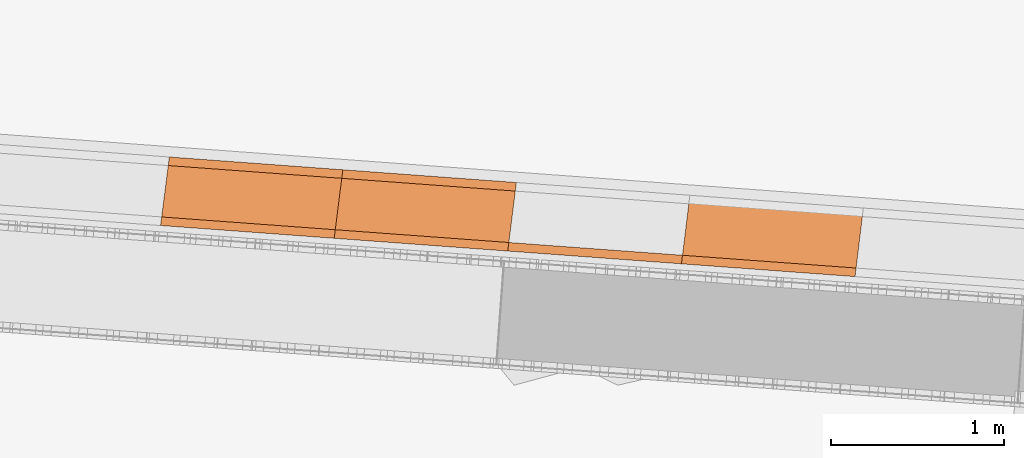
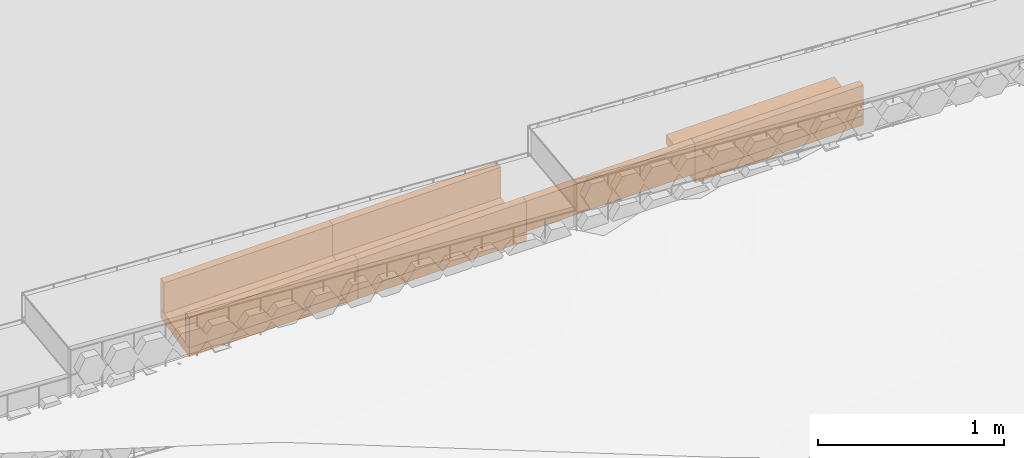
# Not in any storey, part 28 of 46: 9 proxies.
"""IFC4 model written with IfcOpenShell, lengths in metres."""

import ifcopenshell
import ifcopenshell.guid

model = None  # the IFC model being written
_history = None  # IfcOwnerHistory: only IFC2X3 demands one
_inside = {}  # id of a spatial element -> (the spatial element, [elements in it])
_under = {}  # id of a project, library or spatial element -> (it, [spatial elements below it])
_declared = {}  # id of a project -> (the project, [libraries it declares])
_typed = {}  # id of a type object -> (the type object, [elements of that type])
_made_of = {}  # id of a material, layer set ... -> (it, [elements and type objects made of it])


def new_model(schema):
    """Start an empty IFC model of exactly this schema.

    Asked for "IFC4X3", IfcOpenShell would pick the latest addendum, in which some entities
    have other attributes; the version numbers below select the first issue.
    IFC2X3 requires an IfcOwnerHistory on every rooted entity: one is made here for all.
    """
    global model, _history
    if schema == "IFC4X3":
        model = ifcopenshell.file(schema_version=(4, 3, 0, 0))
    else:
        model = ifcopenshell.file(schema=schema)
    _inside.clear()
    _under.clear()
    _declared.clear()
    _typed.clear()
    _made_of.clear()
    _history = None
    if model.schema == "IFC2X3":
        org = make("IfcOrganization", Name="unknown")
        user = make(
            "IfcPersonAndOrganization",
            ThePerson=make("IfcPerson", FamilyName="unknown"),
            TheOrganization=org,
        )
        app = make(
            "IfcApplication",
            ApplicationDeveloper=org,
            Version="unknown",
            ApplicationFullName="unknown",
            ApplicationIdentifier="unknown",
        )
        _history = make(
            "IfcOwnerHistory",
            OwningUser=user,
            OwningApplication=app,
            ChangeAction="ADDED",
            CreationDate=0,
        )
    return model


def make(cls, **values):
    """One entity of the class cls with the attributes given. An attribute that is None is left unset."""
    return model.create_entity(
        cls, **{name: value for name, value in values.items() if value is not None}
    )


def rooted(cls, **values):
    """An entity with a GlobalId (a new one), such as an element, a storey or a relation."""
    return make(cls, GlobalId=ifcopenshell.guid.new(), OwnerHistory=_history, **values)


def si_unit(unit_type, name, prefix=None):
    """IfcSIUnit, for example si_unit("LENGTHUNIT", "METRE", prefix="MILLI")."""
    return make("IfcSIUnit", UnitType=unit_type, Prefix=prefix, Name=name)


def assignment(units):
    """IfcUnitAssignment: the units of a project."""
    return None if units is None else make("IfcUnitAssignment", Units=units)


def point(xyz):
    """IfcCartesianPoint."""
    return None if xyz is None else make("IfcCartesianPoint", Coordinates=xyz)


def direction(xyz):
    """IfcDirection."""
    return None if xyz is None else make("IfcDirection", DirectionRatios=xyz)


def frame(location, z_axis=None, x_axis=None):
    """IfcAxis2Placement3D, a coordinate frame: its origin and axes. An axis left out is left unset."""
    return make(
        "IfcAxis2Placement3D",
        Location=point(location),
        Axis=direction(z_axis),
        RefDirection=direction(x_axis),
    )


def origin_with_axes():
    """The frame at (0, 0, 0) with the z axis (0, 0, 1) and the x axis (1, 0, 0) written out."""
    return frame((0.0, 0.0, 0.0), z_axis=(0.0, 0.0, 1.0), x_axis=(1.0, 0.0, 0.0))


def place(relative_to, where):
    """IfcLocalPlacement: puts the frame where relative to a parent placement (None: the world)."""
    return make(
        "IfcLocalPlacement", PlacementRelTo=relative_to, RelativePlacement=where
    )


def context(
    kind, dimensions, precision=None, world=None, true_north=None, identifier=None
):
    """IfcGeometricRepresentationContext, for example the 3D "Model" context."""
    return make(
        "IfcGeometricRepresentationContext",
        ContextIdentifier=identifier,
        ContextType=kind,
        CoordinateSpaceDimension=dimensions,
        Precision=precision,
        WorldCoordinateSystem=world,
        TrueNorth=true_north,
    )


def subcontext(parent, identifier, kind, view, scale=None):
    """IfcGeometricRepresentationSubContext, for example "Body" below "Model"."""
    return make(
        "IfcGeometricRepresentationSubContext",
        ContextIdentifier=identifier,
        ContextType=kind,
        ParentContext=parent,
        TargetScale=scale,
        TargetView=view,
    )


def project(units=None, contexts=None):
    """IfcProject with its units and contexts."""
    return rooted(
        "IfcProject",
        Name="project",
        RepresentationContexts=contexts,
        UnitsInContext=assignment(units),
    )


def spatial(cls, under=None, at=None, **own):
    """A site, building, storey or space (cls), placed at a placement, below another one or the project."""
    s = rooted(cls, ObjectPlacement=at, **own)
    if under is not None:
        _under.setdefault(under.id(), (under, []))[1].append(s)
    return s


def point_list(points):
    """IfcCartesianPointList2D or 3D."""
    cls = (
        "IfcCartesianPointList2D" if len(points[0]) == 2 else "IfcCartesianPointList3D"
    )
    return make(cls, CoordList=points)


def polygons(points, faces, closed=None, point_numbers=None):
    """IfcPolygonalFaceSet: a face is its outer loop, then its inner loops; points numbered from 1."""
    made = []
    for loops in faces:
        if len(loops) == 1:
            made.append(make("IfcIndexedPolygonalFace", CoordIndex=loops[0]))
        else:
            made.append(
                make(
                    "IfcIndexedPolygonalFaceWithVoids",
                    CoordIndex=loops[0],
                    InnerCoordIndices=loops[1:],
                )
            )
    return make(
        "IfcPolygonalFaceSet",
        Coordinates=point_list(points),
        Closed=closed,
        Faces=made,
        PnIndex=point_numbers,
    )


def shape(context_of_items, identifier, shape_type, items):
    """IfcShapeRepresentation: the items that make up one representation, for example the "Body"."""
    return make(
        "IfcShapeRepresentation",
        ContextOfItems=context_of_items,
        RepresentationIdentifier=identifier,
        RepresentationType=shape_type,
        Items=items,
    )


def material(Name=None, Category=None):
    """IfcMaterial."""
    return make("IfcMaterial", Name=Name, Category=Category)


def made_of(thing, what):
    """Note that an element or type object is made of a material, layer set ...; save() writes the relation."""
    if what is not None:
        _made_of.setdefault(what.id(), (what, []))[1].append(thing)
    return thing


def element(
    cls,
    number,
    at=None,
    inside=None,
    cuts=None,
    type_object=None,
    material=None,
    context=None,
    identifier="Body",
    shape_type=None,
    held_by="IfcProductDefinitionShape",
    body=None,
    shapes=None,
    **own,
):
    """One element of the class cls, such as IfcWall. Its Tag is "e" and its number.

    at: its placement. inside: the storey or other place that contains it. cuts: it is an
    opening in that element (IfcRelVoidsElement). A single representation is given by context,
    identifier, shape_type and body (its items); several are given by shapes. held_by: the class
    of the entity that holds the representations. save() writes the other relations.
    """
    e = rooted(cls, Tag="e%d" % number, ObjectPlacement=at, **own)
    if body is not None:
        shapes = [shape(context, identifier, shape_type, body)]
    if shapes is not None:
        e.Representation = make(held_by, Representations=shapes)
    if inside is not None:
        _inside.setdefault(inside.id(), (inside, []))[1].append(e)
    if cuts is not None:
        rooted(
            "IfcRelVoidsElement", RelatingBuildingElement=cuts, RelatedOpeningElement=e
        )
    if type_object is not None:
        _typed.setdefault(type_object.id(), (type_object, []))[1].append(e)
    return made_of(e, material)


def aggregate(whole, parts):
    """IfcRelAggregates: a whole, such as a stair, and the parts it consists of."""
    return rooted("IfcRelAggregates", RelatingObject=whole, RelatedObjects=parts)


def save(model, path):
    """Write the relations noted so far, then the file.

    IfcRelAggregates (storeys below a building ...), IfcRelContainedInSpatialStructure (elements
    in a storey), IfcRelDefinesByType, IfcRelAssociatesMaterial and IfcRelDeclares: one each for
    every whole, place, type object, material and project.
    """
    for whole, parts in _under.values():
        aggregate(whole, parts)
    for where, things in _inside.values():
        rooted(
            "IfcRelContainedInSpatialStructure",
            RelatedElements=things,
            RelatingStructure=where,
        )
    for kind, things in _typed.values():
        rooted("IfcRelDefinesByType", RelatedObjects=things, RelatingType=kind)
    for what, things in _made_of.values():
        rooted("IfcRelAssociatesMaterial", RelatedObjects=things, RelatingMaterial=what)
    for by, libraries in _declared.values():
        rooted("IfcRelDeclares", RelatingContext=by, RelatedDefinitions=libraries)
    model.write(path)


model = new_model("IFC4")

# Units and contexts
model_context = context("Model", 3, precision=1e-05, world=origin_with_axes(), true_north=direction((0.0, 1.0)))
body_context = subcontext(model_context, "Body", "Model", "MODEL_VIEW")
ifc_project = project(units=[si_unit("VOLUMEUNIT", "CUBIC_METRE"), si_unit("LENGTHUNIT", "METRE"), si_unit("AREAUNIT", "SQUARE_METRE")], contexts=[model_context])

# Site
site_placement = place(None, origin_with_axes())
site = spatial("IfcSite", under=ifc_project, at=site_placement, Name="Lares · Rua das Mercês · artigo 4771")

# Proxies
ifc_material = material(Name="Caleiras · betão", Category="concrete")
proxy_1_placement = place(site_placement, frame((0.0, 0.0, 0.0), z_axis=(0.0, 0.0, 1.0), x_axis=(1.0, -1.03767253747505e-17, 0.0)))
element("IfcBuildingElementProxy", 1, at=proxy_1_placement, inside=site, material=ifc_material, Name="Acesso · canal lateral", ObjectType="Acesso · canal lateral", PredefinedType="USERDEFINED", context=body_context, shape_type="Tessellation", body=[
    polygons([(62.6476085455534, 1.56480043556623, 14.379038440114), (62.6982380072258, 1.96158332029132, 14.379038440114), (63.7029604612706, 1.88769966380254, 14.4534964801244), (63.6523309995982, 1.49091677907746, 14.4534964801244), (62.6476085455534, 1.56480043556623, 14.439038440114), (62.6982380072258, 1.96158332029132, 14.439038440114), (63.7029604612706, 1.88769966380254, 14.5134964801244), (63.6523309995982, 1.49091677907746, 14.5134964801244)], [[[4, 3, 2, 1]], [[5, 6, 7, 8]], [[1, 2, 6, 5]], [[2, 3, 7, 6]], [[3, 4, 8, 7]], [[4, 1, 5, 8]]]),
])
proxy_2_placement = place(site_placement, frame((0.0, 0.0, 0.0), z_axis=(0.0, 0.0, 1.0), x_axis=(1.0, -1.03767253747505e-17, 0.0)))
element("IfcBuildingElementProxy", 2, at=proxy_2_placement, inside=site, material=ifc_material, Name="Acesso · canal lateral", ObjectType="Acesso · canal lateral", PredefinedType="USERDEFINED", context=body_context, shape_type="Tessellation", body=[
    polygons([(62.6476085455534, 1.56480043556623, 14.439038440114), (62.6539372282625, 1.61439829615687, 14.439038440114), (63.6586596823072, 1.54051463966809, 14.5134964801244), (63.6523309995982, 1.49091677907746, 14.5134964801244), (62.6476085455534, 1.56480043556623, 14.639038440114), (62.6539372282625, 1.61439829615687, 14.639038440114), (63.6586596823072, 1.54051463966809, 14.7134964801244), (63.6523309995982, 1.49091677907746, 14.7134964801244)], [[[4, 3, 2, 1]], [[5, 6, 7, 8]], [[1, 2, 6, 5]], [[2, 3, 7, 6]], [[3, 4, 8, 7]], [[4, 1, 5, 8]]]),
])
proxy_3_placement = place(site_placement, frame((0.0, 0.0, 0.0), z_axis=(0.0, 0.0, 1.0), x_axis=(1.0, -1.03767253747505e-17, 0.0)))
element("IfcBuildingElementProxy", 3, at=proxy_3_placement, inside=site, material=ifc_material, Name="Acesso · canal lateral", ObjectType="Acesso · canal lateral", PredefinedType="USERDEFINED", context=body_context, shape_type="Tessellation", body=[
    polygons([(62.6919093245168, 1.91198545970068, 14.439038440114), (62.6982380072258, 1.96158332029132, 14.439038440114), (63.7029604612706, 1.88769966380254, 14.5134964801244), (63.6966317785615, 1.83810180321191, 14.5134964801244), (62.6919093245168, 1.91198545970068, 14.639038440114), (62.6982380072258, 1.96158332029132, 14.639038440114), (63.7029604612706, 1.88769966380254, 14.7134964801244), (63.6966317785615, 1.83810180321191, 14.7134964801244)], [[[4, 3, 2, 1]], [[5, 6, 7, 8]], [[1, 2, 6, 5]], [[2, 3, 7, 6]], [[3, 4, 8, 7]], [[4, 1, 5, 8]]]),
])
proxy_4_placement = place(site_placement, frame((0.0, 0.0, 0.0), z_axis=(0.0, 0.0, 1.0), x_axis=(1.0, -1.03767253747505e-17, 0.0)))
element("IfcBuildingElementProxy", 4, at=proxy_4_placement, inside=site, material=ifc_material, Name="Acesso · canal lateral", ObjectType="Acesso · canal lateral", PredefinedType="USERDEFINED", context=body_context, shape_type="Tessellation", body=[
    polygons([(63.6526536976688, 1.49087586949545, 14.4534964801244), (63.7026377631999, 1.88774057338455, 14.4534964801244), (64.7073722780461, 1.81385608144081, 14.5279545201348), (64.657388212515, 1.41699137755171, 14.5279545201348), (63.6526536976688, 1.49087586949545, 14.5134964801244), (63.7026377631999, 1.88774057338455, 14.5134964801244), (64.7073722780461, 1.81385608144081, 14.5879545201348), (64.657388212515, 1.41699137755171, 14.5879545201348)], [[[4, 3, 2, 1]], [[5, 6, 7, 8]], [[1, 2, 6, 5]], [[2, 3, 7, 6]], [[3, 4, 8, 7]], [[4, 1, 5, 8]]]),
])
proxy_5_placement = place(site_placement, frame((0.0, 0.0, 0.0), z_axis=(0.0, 0.0, 1.0), x_axis=(1.0, -1.03767253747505e-17, 0.0)))
element("IfcBuildingElementProxy", 5, at=proxy_5_placement, inside=site, material=ifc_material, Name="Acesso · canal lateral", ObjectType="Acesso · canal lateral", PredefinedType="USERDEFINED", context=body_context, shape_type="Tessellation", body=[
    polygons([(63.6526536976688, 1.49087586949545, 14.5134964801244), (63.6589017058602, 1.54048395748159, 14.5134964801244), (64.6636362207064, 1.46659946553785, 14.5879545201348), (64.657388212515, 1.41699137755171, 14.5879545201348), (63.6526536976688, 1.49087586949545, 14.7134964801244), (63.6589017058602, 1.54048395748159, 14.7134964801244), (64.6636362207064, 1.46659946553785, 14.7879545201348), (64.657388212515, 1.41699137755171, 14.7879545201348)], [[[4, 3, 2, 1]], [[5, 6, 7, 8]], [[1, 2, 6, 5]], [[2, 3, 7, 6]], [[3, 4, 8, 7]], [[4, 1, 5, 8]]]),
])
proxy_6_placement = place(site_placement, frame((0.0, 0.0, 0.0), z_axis=(0.0, 0.0, 1.0), x_axis=(1.0, -1.03767253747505e-17, 0.0)))
element("IfcBuildingElementProxy", 6, at=proxy_6_placement, inside=site, material=ifc_material, Name="Acesso · canal lateral", ObjectType="Acesso · canal lateral", PredefinedType="USERDEFINED", context=body_context, shape_type="Tessellation", body=[
    polygons([(63.6963897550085, 1.83813248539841, 14.5134964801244), (63.7026377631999, 1.88774057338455, 14.5134964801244), (64.7073722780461, 1.81385608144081, 14.5879545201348), (64.7011242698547, 1.76424799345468, 14.5879545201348), (63.6963897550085, 1.83813248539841, 14.7134964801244), (63.7026377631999, 1.88774057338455, 14.7134964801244), (64.7073722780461, 1.81385608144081, 14.7879545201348), (64.7011242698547, 1.76424799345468, 14.7879545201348)], [[[4, 3, 2, 1]], [[5, 6, 7, 8]], [[1, 2, 6, 5]], [[2, 3, 7, 6]], [[3, 4, 8, 7]], [[4, 1, 5, 8]]]),
])
proxy_7_placement = place(site_placement, frame((0.0, 0.0, 0.0), z_axis=(0.0, 0.0, 1.0), x_axis=(1.0, -1.03767253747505e-17, 0.0)))
element("IfcBuildingElementProxy", 7, at=proxy_7_placement, inside=site, material=ifc_material, Name="Acesso · canal lateral", ObjectType="Acesso · canal lateral", PredefinedType="USERDEFINED", context=body_context, shape_type="Tessellation", body=[
    polygons([(64.6577203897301, 1.41694982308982, 14.5879545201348), (64.6638853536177, 1.46656829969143, 14.5879545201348), (65.6686324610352, 1.39268296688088, 14.6624125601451), (65.6624674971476, 1.34306449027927, 14.6624125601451), (64.6577203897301, 1.41694982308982, 14.7879545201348), (64.6638853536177, 1.46656829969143, 14.7879545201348), (65.6686324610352, 1.39268296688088, 14.8624125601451), (65.6624674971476, 1.34306449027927, 14.8624125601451)], [[[4, 3, 2, 1]], [[5, 6, 7, 8]], [[1, 2, 6, 5]], [[2, 3, 7, 6]], [[3, 4, 8, 7]], [[4, 1, 5, 8]]]),
])
proxy_8_placement = place(site_placement, frame((0.0, 0.0, 0.0), z_axis=(0.0, 0.0, 1.0), x_axis=(1.0, -1.03767253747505e-17, 0.0)))
element("IfcBuildingElementProxy", 8, at=proxy_8_placement, inside=site, material=ifc_material, Name="Acesso · canal lateral", ObjectType="Acesso · canal lateral", PredefinedType="USERDEFINED", context=body_context, shape_type="Tessellation", body=[
    polygons([(65.6628095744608, 1.34302228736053, 14.6024125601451), (65.7114451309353, 1.74005450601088, 14.6024125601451), (66.7162053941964, 1.66616832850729, 14.6768706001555), (66.6675698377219, 1.26913610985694, 14.6768706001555), (65.6628095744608, 1.34302228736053, 14.6624125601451), (65.7114451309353, 1.74005450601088, 14.6624125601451), (66.7162053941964, 1.66616832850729, 14.7368706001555), (66.6675698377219, 1.26913610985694, 14.7368706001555)], [[[4, 3, 2, 1]], [[5, 6, 7, 8]], [[1, 2, 6, 5]], [[2, 3, 7, 6]], [[3, 4, 8, 7]], [[4, 1, 5, 8]]]),
])
proxy_9_placement = place(site_placement, frame((0.0, 0.0, 0.0), z_axis=(0.0, 0.0, 1.0), x_axis=(1.0, -1.03767253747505e-17, 0.0)))
element("IfcBuildingElementProxy", 9, at=proxy_9_placement, inside=site, material=ifc_material, Name="Acesso · canal lateral", ObjectType="Acesso · canal lateral", PredefinedType="USERDEFINED", context=body_context, shape_type="Tessellation", body=[
    polygons([(65.6628095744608, 1.34302228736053, 14.6624125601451), (65.6688890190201, 1.39265131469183, 14.6624125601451), (66.6736492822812, 1.31876513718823, 14.7368706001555), (66.6675698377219, 1.26913610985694, 14.7368706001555), (65.6628095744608, 1.34302228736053, 14.8624125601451), (65.6688890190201, 1.39265131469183, 14.8624125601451), (66.6736492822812, 1.31876513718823, 14.9368706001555), (66.6675698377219, 1.26913610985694, 14.9368706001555)], [[[4, 3, 2, 1]], [[5, 6, 7, 8]], [[1, 2, 6, 5]], [[2, 3, 7, 6]], [[3, 4, 8, 7]], [[4, 1, 5, 8]]]),
])

save(model, "model.ifc")
